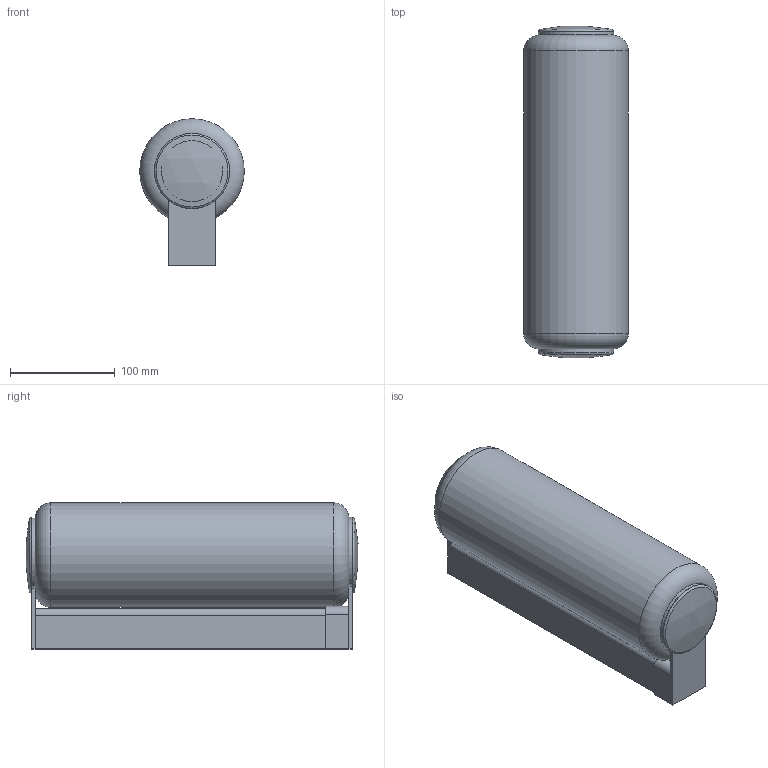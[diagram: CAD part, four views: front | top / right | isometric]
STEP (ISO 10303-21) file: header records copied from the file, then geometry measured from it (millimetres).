
FILE_DESCRIPTION(/* description */ ('STACKING P/PL 30 CE'),/* implementation_level */ '2;1');
FILE_NAME(/* name */ '343Z0LD0-0CEPD - STACKING P-PL 30 EMEA - VU MLR.stp',/* time_stamp */ '2026-01-29T11:22:52+01:00',/* author */ ('marco.prandina'),/* organization */ (''),/* preprocessor_version */ 'ST-DEVELOPER v20.1',/* originating_system */ 'Autodesk Inventor 2026',/* authorisation */ '');
FILE_SCHEMA (('AUTOMOTIVE_DESIGN { 1 0 10303 214 3 1 1 }'));
Length unit declared in the file: millimetre
Products named in the file (31): 343Z0LD0-1CEPD; 343C667; 343C439; 343C669; GRANO M6X10 ISO 4026; 343C668; 343C635-A; 343C671; DADO M4 A3 - DIN 934; RONDELLA DENTELLATA ESTERNA M4; 343C672; 343C657; 343C659-A; W027-BIA; X0023-020; 343C670; 00343C397; 00343C404; 00343C398; 00343C407-A; B006; VITE TCB M4X8 UNI7687 ZB; VITE TCB M3X8 UNI7687 ZB; VITE TSP M4X6 ZN; 00343C410; DADO M3 S2 M.00.06.19 UNI5588 DIN934; RONDELLA DENTELLATA ESTERNA M3 UNI8842A; K002; Z016-A; Z016-B; 00343V006-C-300
Assembly tree (35 placements, depth 2):
  343Z0LD0-1CEPD
    343C667
    343C439
    343C669
    GRANO M6X10 ISO 4026
    343C668
    343C635-A
    343C671
    DADO M4 A3 - DIN 934  x2
    RONDELLA DENTELLATA ESTERNA M4  x2
    343C672
    343C657
    343C659-A
    X0023-020  x2
    W027-BIA
    343C670
    00343C397
    00343C404
    00343C398
    00343C407-A
    B006
    VITE TCB M4X8 UNI7687 ZB
    VITE TCB M3X8 UNI7687 ZB  x3
    VITE TSP M4X6 ZN
    00343C410
    DADO M3 S2 M.00.06.19 UNI5588 DIN934
    RONDELLA DENTELLATA ESTERNA M3 UNI8842A
    K002
    Z016-A
    Z016-B
    00343V006-C-300
Bounding box: 100 x 317.41 x 140 mm (x, y, z)
Volume: 686726.6 mm3; surface area: 531190.1 mm2
Topology: 35 solids, 35 shells, 1696 faces, 4612 edges, 3040 vertices
Faces by surface type: plane 808, cylinder 649, cone 170, bspline 38, torus 24, sphere 7
Full cylindrical faces by diameter (mm): 1.02 x1, 2.459 x8, 2.75 x3, 2.9 x1, 3 x6, 3.2 x4, 3.242 x2, 3.4 x3, 3.459 x2, 3.5 x2, 3.571 x1, 3.65 x1, 4 x4, 4.2 x1, 4.3 x2, 4.5 x10, 4.917 x1, 5 x3, 5.2 x1, 6 x1, 6.5 x2, 8.4 x1, 9 x2, 10.5 x1, 12 x1, 12.5 x2, 12.917 x1, 13 x1, 14 x1, 15 x3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
Entity records: 54106 total; most frequent: CARTESIAN_POINT 14121, ORIENTED_EDGE 8244, DIRECTION 7583, EDGE_CURVE 4122, AXIS2_PLACEMENT_3D 2732, VERTEX_POINT 2721, LINE 2119, VECTOR 2119
